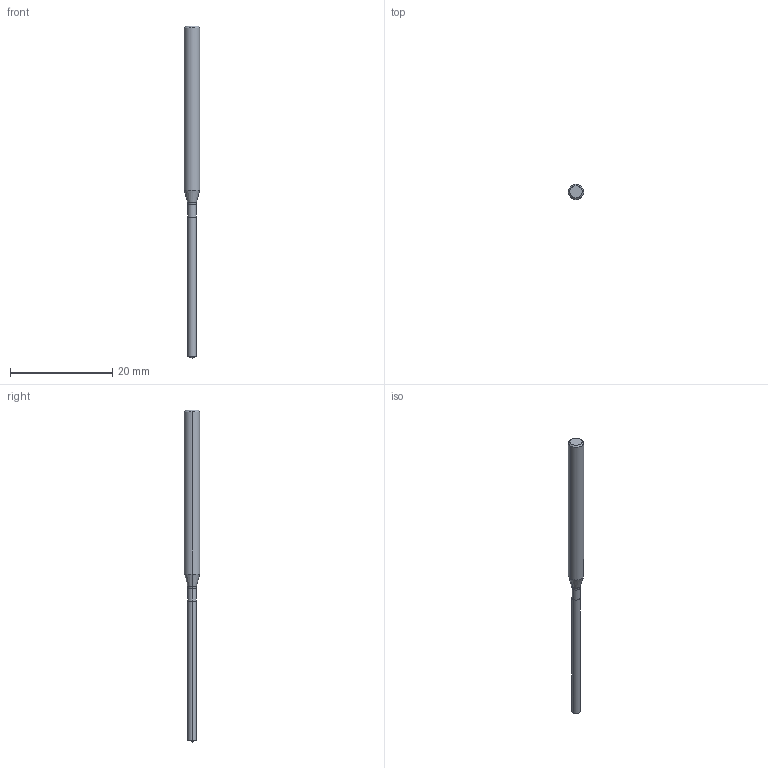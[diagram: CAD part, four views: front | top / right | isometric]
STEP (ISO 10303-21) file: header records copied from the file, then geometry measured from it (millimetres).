
FILE_DESCRIPTION (( 'STEP AP214' ), '1' );
FILE_NAME ('710.016.00_3D-model.step', '2022-02-22T04:29:26', ( '' ), ( '' ), 'SwSTEP 2.0', 'SolidWorks 2020', '' );
FILE_SCHEMA (( 'AUTOMOTIVE_DESIGN' ));
Length unit declared in the file: millimetre
Products named in the file (3): 710.016.00_3D-model; CUT-3D^Baugr126; NOCUT-3D^Baugr126
Assembly tree (2 placements, depth 2):
  710.016.00_3D-model
    CUT-3D^Baugr126
    NOCUT-3D^Baugr126
Bounding box: 3 x 3 x 65 mm (x, y, z)
Volume: 298.3 mm3; surface area: 484.3 mm2
Topology: 2 solids, 2 shells, 17 faces, 32 edges, 17 vertices
Faces by surface type: cone 6, cylinder 6, plane 3, torus 2
Entity records: 532 total; most frequent: DIRECTION 98, CARTESIAN_POINT 72, ORIENTED_EDGE 60, AXIS2_PLACEMENT_3D 43, EDGE_CURVE 30, CIRCLE 18, ADVANCED_FACE 17, FACE_OUTER_BOUND 17
